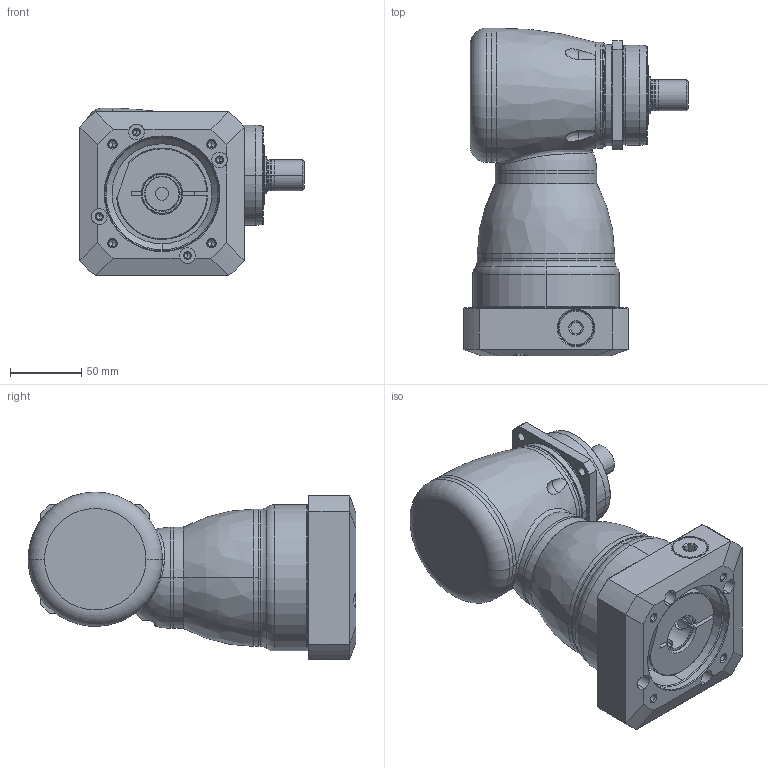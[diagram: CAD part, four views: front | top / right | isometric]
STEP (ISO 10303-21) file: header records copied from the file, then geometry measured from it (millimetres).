
FILE_DESCRIPTION((''),'2;1');
FILE_NAME('KF075_S3_1ST_24-P0409500101_ASM','2016-07-01T',('d01943'),(''),'PRO/ENGINEER BY PARAMETRIC TECHNOLOGY CORPORATION, 2008410','PRO/ENGINEER BY PARAMETRIC TECHNOLOGY CORPORATION, 2008410','');
FILE_SCHEMA(('CONFIG_CONTROL_DESIGN'));
Length unit declared in the file: millimetre
Products named in the file (11): P1008300002; P1804300001; P0915302001; P1315300001; P1007300001; P1318300301; P0409500101; P0503500010; P0912303001; 21711418017; KF075_S3_1ST_24-P0409500101_ASM
Assembly tree (10 placements, depth 2):
  KF075_S3_1ST_24-P0409500101_ASM
    P1008300002
    P1804300001
    P0915302001
    P1315300001
    P1007300001
    P1318300301
    P0409500101
    P0503500010
    P0912303001
    21711418017
Bounding box: 157 x 229.5 x 117.5 mm (x, y, z)
Volume: 1605266.8 mm3; surface area: 229880.9 mm2
Topology: 11 solids, 11 shells, 466 faces, 1077 edges, 640 vertices
Faces by surface type: cylinder 161, cone 122, plane 88, torus 60, bspline 33, sphere 2
Entity records: 20264 total; most frequent: CARTESIAN_POINT 9568, DIRECTION 2342, ORIENTED_EDGE 2090, EDGE_CURVE 1045, AXIS2_PLACEMENT_3D 991, VERTEX_POINT 634, CIRCLE 537, EDGE_LOOP 531
